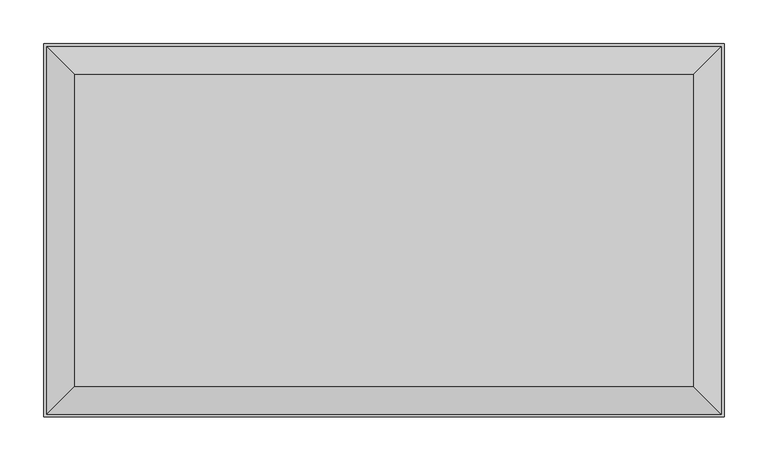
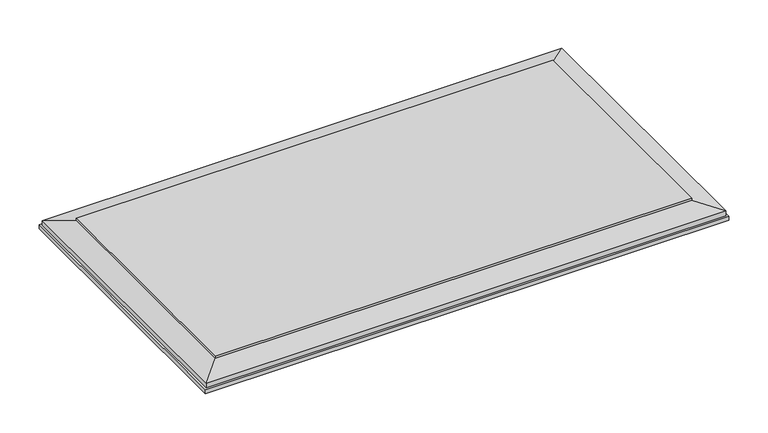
"""IFC4 building model written with IfcOpenShell, lengths in millimetres: proxy geometry, CAMBRIDGE^TABLE 2_4884 Rect-OUT SIDE PANEL 1."""

import ifcopenshell
import ifcopenshell.guid

model = None  # the IFC model being written
_history = None  # IfcOwnerHistory: only IFC2X3 demands one
_inside = {}  # id of a spatial element -> (the spatial element, [elements in it])
_under = {}  # id of a project, library or spatial element -> (it, [spatial elements below it])
_declared = {}  # id of a project -> (the project, [libraries it declares])
_typed = {}  # id of a type object -> (the type object, [elements of that type])
_made_of = {}  # id of a material, layer set ... -> (it, [elements and type objects made of it])


def new_model(schema):
    """Start an empty IFC model of exactly this schema.

    Asked for "IFC4X3", IfcOpenShell would pick the latest addendum, in which some entities
    have other attributes; the version numbers below select the first issue.
    IFC2X3 requires an IfcOwnerHistory on every rooted entity: one is made here for all.
    """
    global model, _history
    if schema == "IFC4X3":
        model = ifcopenshell.file(schema_version=(4, 3, 0, 0))
    else:
        model = ifcopenshell.file(schema=schema)
    _inside.clear()
    _under.clear()
    _declared.clear()
    _typed.clear()
    _made_of.clear()
    _history = None
    if model.schema == "IFC2X3":
        org = make("IfcOrganization", Name="unknown")
        user = make(
            "IfcPersonAndOrganization",
            ThePerson=make("IfcPerson", FamilyName="unknown"),
            TheOrganization=org,
        )
        app = make(
            "IfcApplication",
            ApplicationDeveloper=org,
            Version="unknown",
            ApplicationFullName="unknown",
            ApplicationIdentifier="unknown",
        )
        _history = make(
            "IfcOwnerHistory",
            OwningUser=user,
            OwningApplication=app,
            ChangeAction="ADDED",
            CreationDate=0,
        )
    return model


def make(cls, **values):
    """One entity of the class cls with the attributes given. An attribute that is None is left unset."""
    return model.create_entity(
        cls, **{name: value for name, value in values.items() if value is not None}
    )


def rooted(cls, **values):
    """An entity with a GlobalId (a new one), such as an element, a storey or a relation."""
    return make(cls, GlobalId=ifcopenshell.guid.new(), OwnerHistory=_history, **values)


def si_unit(unit_type, name, prefix=None):
    """IfcSIUnit, for example si_unit("LENGTHUNIT", "METRE", prefix="MILLI")."""
    return make("IfcSIUnit", UnitType=unit_type, Prefix=prefix, Name=name)


def assignment(units):
    """IfcUnitAssignment: the units of a project."""
    return None if units is None else make("IfcUnitAssignment", Units=units)


def point(xyz):
    """IfcCartesianPoint."""
    return None if xyz is None else make("IfcCartesianPoint", Coordinates=xyz)


def direction(xyz):
    """IfcDirection."""
    return None if xyz is None else make("IfcDirection", DirectionRatios=xyz)


def frame(location, z_axis=None, x_axis=None):
    """IfcAxis2Placement3D, a coordinate frame: its origin and axes. An axis left out is left unset."""
    return make(
        "IfcAxis2Placement3D",
        Location=point(location),
        Axis=direction(z_axis),
        RefDirection=direction(x_axis),
    )


def origin():
    """The frame at (0, 0, 0) with its axes left unset."""
    return frame((0.0, 0.0, 0.0))


def place(relative_to, where):
    """IfcLocalPlacement: puts the frame where relative to a parent placement (None: the world)."""
    return make(
        "IfcLocalPlacement", PlacementRelTo=relative_to, RelativePlacement=where
    )


def context(
    kind, dimensions, precision=None, world=None, true_north=None, identifier=None
):
    """IfcGeometricRepresentationContext, for example the 3D "Model" context."""
    return make(
        "IfcGeometricRepresentationContext",
        ContextIdentifier=identifier,
        ContextType=kind,
        CoordinateSpaceDimension=dimensions,
        Precision=precision,
        WorldCoordinateSystem=world,
        TrueNorth=true_north,
    )


def project(units=None, contexts=None):
    """IfcProject with its units and contexts."""
    return rooted(
        "IfcProject",
        Name="project",
        RepresentationContexts=contexts,
        UnitsInContext=assignment(units),
    )


def spatial(cls, under=None, at=None, **own):
    """A site, building, storey or space (cls), placed at a placement, below another one or the project."""
    s = rooted(cls, ObjectPlacement=at, **own)
    if under is not None:
        _under.setdefault(under.id(), (under, []))[1].append(s)
    return s


def faces_of(points, faces, orient=None, outer=None):
    """IfcFace entities. A face is a list of loops; a loop is a list of indices into points, from 0.

    orient and outer hold one flag for each loop. By default every Orientation is true, the
    first loop of a face is its IfcFaceOuterBound and the others are IfcFaceBound.
    """
    made = []
    for i, loops in enumerate(faces):
        bounds = []
        for j, loop in enumerate(loops):
            is_outer = j == 0 if outer is None else outer[i][j]
            bounds.append(
                make(
                    "IfcFaceOuterBound" if is_outer else "IfcFaceBound",
                    Bound=make("IfcPolyLoop", Polygon=[points[k] for k in loop]),
                    Orientation=True if orient is None else orient[i][j],
                )
            )
        made.append(make("IfcFace", Bounds=bounds))
    return made


def faceted_brep(points, faces, orient=None, outer=None, voids=None):
    """IfcFacetedBrep: a solid bounded by flat faces; with voids (closed shells), ...WithVoids."""
    shared = [point(p) for p in points]
    hull = make("IfcClosedShell", CfsFaces=faces_of(shared, faces, orient, outer))
    if voids is None:
        return make("IfcFacetedBrep", Outer=hull)
    return make(
        "IfcFacetedBrepWithVoids",
        Outer=hull,
        Voids=[
            make(cls, CfsFaces=faces_of(shared, fs, o, b)) for cls, fs, o, b in voids
        ],
    )


def shape(context_of_items, identifier, shape_type, items):
    """IfcShapeRepresentation: the items that make up one representation, for example the "Body"."""
    return make(
        "IfcShapeRepresentation",
        ContextOfItems=context_of_items,
        RepresentationIdentifier=identifier,
        RepresentationType=shape_type,
        Items=items,
    )


def source(mapping_origin, context_of_items, identifier, shape_type, items):
    """IfcRepresentationMap: a shape defined once, which mapped items show again and again."""
    return make(
        "IfcRepresentationMap",
        MappingOrigin=mapping_origin,
        MappedRepresentation=shape(context_of_items, identifier, shape_type, items),
    )


def transform(
    local_origin,
    x_axis=None,
    y_axis=None,
    z_axis=None,
    scale=None,
    scale2=None,
    scale3=None,
    uniform=True,
):
    """IfcCartesianTransformationOperator3D, or its non-uniform kind. x_axis, y_axis, z_axis: its Axis1, 2, 3."""
    if uniform:
        return make(
            "IfcCartesianTransformationOperator3D",
            Axis1=direction(x_axis),
            Axis2=direction(y_axis),
            LocalOrigin=point(local_origin),
            Scale=scale,
            Axis3=direction(z_axis),
        )
    return make(
        "IfcCartesianTransformationOperator3DnonUniform",
        Axis1=direction(x_axis),
        Axis2=direction(y_axis),
        LocalOrigin=point(local_origin),
        Scale=scale,
        Axis3=direction(z_axis),
        Scale2=scale2,
        Scale3=scale3,
    )


def mapped(mapping_source, mapping_target):
    """IfcMappedItem: shows the shape of a source again, moved by a transform."""
    return make(
        "IfcMappedItem", MappingSource=mapping_source, MappingTarget=mapping_target
    )


def made_of(thing, what):
    """Note that an element or type object is made of a material, layer set ...; save() writes the relation."""
    if what is not None:
        _made_of.setdefault(what.id(), (what, []))[1].append(thing)
    return thing


def element(
    cls,
    number,
    at=None,
    inside=None,
    cuts=None,
    type_object=None,
    material=None,
    context=None,
    identifier="Body",
    shape_type=None,
    held_by="IfcProductDefinitionShape",
    body=None,
    shapes=None,
    **own,
):
    """One element of the class cls, such as IfcWall. Its Tag is "e" and its number.

    at: its placement. inside: the storey or other place that contains it. cuts: it is an
    opening in that element (IfcRelVoidsElement). A single representation is given by context,
    identifier, shape_type and body (its items); several are given by shapes. held_by: the class
    of the entity that holds the representations. save() writes the other relations.
    """
    e = rooted(cls, Tag="e%d" % number, ObjectPlacement=at, **own)
    if body is not None:
        shapes = [shape(context, identifier, shape_type, body)]
    if shapes is not None:
        e.Representation = make(held_by, Representations=shapes)
    if inside is not None:
        _inside.setdefault(inside.id(), (inside, []))[1].append(e)
    if cuts is not None:
        rooted(
            "IfcRelVoidsElement", RelatingBuildingElement=cuts, RelatedOpeningElement=e
        )
    if type_object is not None:
        _typed.setdefault(type_object.id(), (type_object, []))[1].append(e)
    return made_of(e, material)


def aggregate(whole, parts):
    """IfcRelAggregates: a whole, such as a stair, and the parts it consists of."""
    return rooted("IfcRelAggregates", RelatingObject=whole, RelatedObjects=parts)


def save(model, path):
    """Write the relations noted so far, then the file.

    IfcRelAggregates (storeys below a building ...), IfcRelContainedInSpatialStructure (elements
    in a storey), IfcRelDefinesByType, IfcRelAssociatesMaterial and IfcRelDeclares: one each for
    every whole, place, type object, material and project.
    """
    for whole, parts in _under.values():
        aggregate(whole, parts)
    for where, things in _inside.values():
        rooted(
            "IfcRelContainedInSpatialStructure",
            RelatedElements=things,
            RelatingStructure=where,
        )
    for kind, things in _typed.values():
        rooted("IfcRelDefinesByType", RelatedObjects=things, RelatingType=kind)
    for what, things in _made_of.values():
        rooted("IfcRelAssociatesMaterial", RelatedObjects=things, RelatingMaterial=what)
    for by, libraries in _declared.values():
        rooted("IfcRelDeclares", RelatingContext=by, RelatedDefinitions=libraries)
    model.write(path)


def generic_models_ce6a4db7(model_context):
    return source(origin(), model_context, "Body", "Brep", [
        faceted_brep([(1419.225, -536.575, -406.4), (1419.225, -536.575, -409.575), (1419.225, -180.975, -409.575), (1419.225, -180.975, -406.4), (1450.975, -568.325, -418.0823869), (1450.975, -149.225, -418.0823869), (1450.975, -568.325, -425.45), (1450.975, -149.225, -425.45), (714.375, -536.575, -406.4), (714.375, -536.575, -409.575), (682.625, -568.325, -418.0823869), (682.625, -568.325, -425.45), (1454.15, -146.05, -425.45), (679.45, -146.05, -425.45), (679.45, -571.5, -425.45), (1454.15, -571.5, -425.45), (682.625, -149.225, -425.45), (714.375, -180.975, -406.4), (714.375, -180.975, -409.575), (682.625, -149.225, -418.0823869), (1454.15, -571.5, -431.8), (1454.15, -146.05, -431.8), (679.45, -571.5, -431.8), (679.45, -146.05, -431.8)], [[[0, 1, 2, 3]], [[1, 4, 5, 2]], [[4, 6, 7, 5]], [[8, 9, 1, 0]], [[9, 10, 4, 1]], [[10, 11, 6, 4]], [[12, 13, 14, 15], [11, 16, 7, 6]], [[17, 18, 9, 8]], [[18, 19, 10, 9]], [[19, 16, 11, 10]], [[3, 2, 18, 17]], [[2, 5, 19, 18]], [[5, 7, 16, 19]], [[12, 15, 20, 21]], [[15, 14, 22, 20]], [[14, 13, 23, 22]], [[13, 12, 21, 23]], [[0, 3, 17, 8]], [[20, 22, 23, 21]]]),
    ])


if __name__ == "__main__":
    model = new_model("IFC4")
    model_context = context("Model", 3, world=origin())
    ifc_project = project(units=[si_unit("LENGTHUNIT", "METRE", prefix="MILLI")], contexts=[model_context])
    site = spatial("IfcSite", under=ifc_project)
    building = spatial("IfcBuilding", under=site)
    placement = place(None, origin())
    generic_models_shape = generic_models_ce6a4db7(model_context)
    element("IfcBuildingElementProxy", 1, Name="CAMBRIDGE^TABLE 2_4884 Rect-OUT SIDE PANEL 1", ObjectType="CAMBRIDGE^TABLE 2_4884 Rect-OUT SIDE PANEL 1", at=placement, inside=building, context=model_context, shape_type="MappedRepresentation", body=[
        mapped(generic_models_shape, transform((0.0, 0.0, 0.0), x_axis=(1.0, 0.0, 0.0), y_axis=(0.0, 1.0, 0.0), z_axis=(0.0, 0.0, 1.0))),
    ])
    save(model, "model.ifc")
